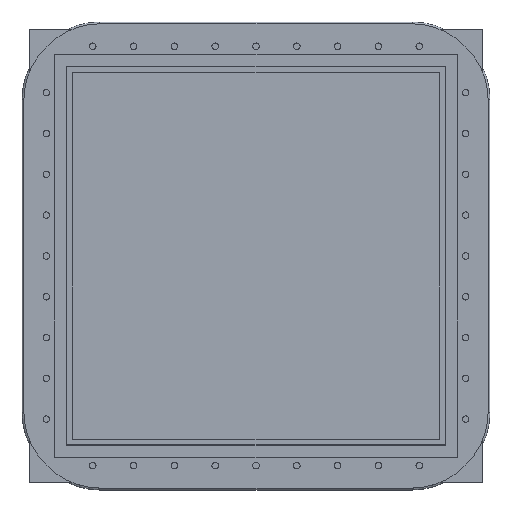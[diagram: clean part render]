
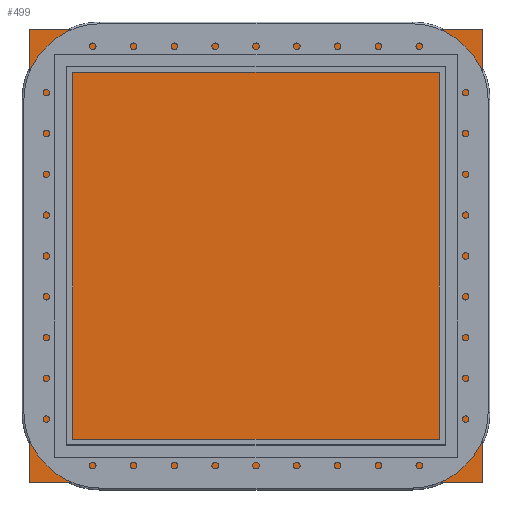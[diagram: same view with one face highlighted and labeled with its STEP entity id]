
A CAD part, top view. The second image highlights one B-rep face of the part: STEP entity #499.
In plain terms, the highlighted planar face has unit normal (0, 0, 1).
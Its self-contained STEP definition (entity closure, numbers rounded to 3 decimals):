
#325=FACE_OUTER_BOUND('',#1655,.T.);
#499=ADVANCED_FACE('',(#325),#677,.F.);
#677=PLANE('',#4258);
#785=LINE('',#6215,#997);
#788=LINE('',#6221,#1000);
#791=LINE('',#6227,#1003);
#794=LINE('',#6232,#1006);
#997=VECTOR('',#4997,1.);
#1000=VECTOR('',#5002,1.);
#1003=VECTOR('',#5007,1.);
#1006=VECTOR('',#5012,1.);
#1655=EDGE_LOOP('',(#2265,#2266,#2267,#2268));
#2265=ORIENTED_EDGE('',*,*,#3467,.F.);
#2266=ORIENTED_EDGE('',*,*,#3476,.F.);
#2267=ORIENTED_EDGE('',*,*,#3473,.F.);
#2268=ORIENTED_EDGE('',*,*,#3470,.F.);
#3067=VERTEX_POINT('',#6214);
#3068=VERTEX_POINT('',#6216);
#3070=VERTEX_POINT('',#6222);
#3072=VERTEX_POINT('',#6228);
#3467=EDGE_CURVE('',#3067,#3068,#785,.T.);
#3470=EDGE_CURVE('',#3068,#3070,#788,.T.);
#3473=EDGE_CURVE('',#3070,#3072,#791,.T.);
#3476=EDGE_CURVE('',#3072,#3067,#794,.T.);
#4258=AXIS2_PLACEMENT_3D('',#6234,#5015,#5016);
#4997=DIRECTION('',(0.,1.,0.));
#5002=DIRECTION('',(1.,0.,0.));
#5007=DIRECTION('',(0.,-1.,0.));
#5012=DIRECTION('',(-1.,0.,0.));
#5015=DIRECTION('',(0.,0.,-1.));
#5016=DIRECTION('',(-1.,0.,0.));
#6214=CARTESIAN_POINT('',(4.,4.,19.177));
#6215=CARTESIAN_POINT('',(4.,4.,19.177));
#6216=CARTESIAN_POINT('',(4.,246.,19.177));
#6221=CARTESIAN_POINT('',(4.,246.,19.177));
#6222=CARTESIAN_POINT('',(246.,246.,19.177));
#6227=CARTESIAN_POINT('',(246.,246.,19.177));
#6228=CARTESIAN_POINT('',(246.,4.,19.177));
#6232=CARTESIAN_POINT('',(246.,4.,19.177));
#6234=CARTESIAN_POINT('',(4.,246.,19.177));
